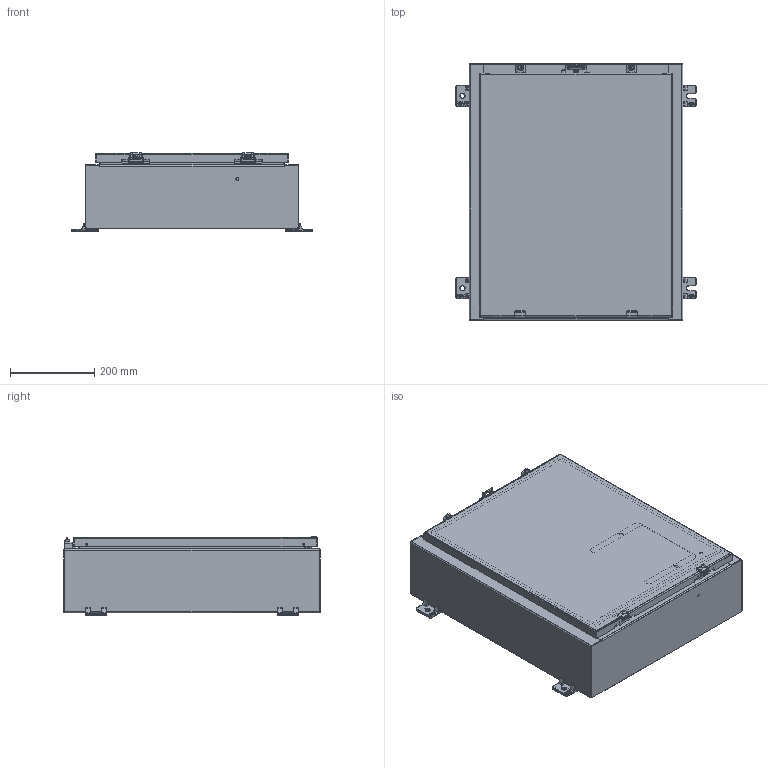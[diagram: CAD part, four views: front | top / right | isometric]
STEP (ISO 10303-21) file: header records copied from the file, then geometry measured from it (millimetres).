
FILE_DESCRIPTION((''),'2;1');
FILE_NAME('MODEL-310_ASM','2024-10-02T13:18:39',('richards'),('SAGINAW CONTROL & ENGINEERING'),'CREO PARAMETRIC BY PTC INC, 2021284','CREO PARAMETRIC BY PTC INC, 2021284','');
FILE_SCHEMA(('AUTOMOTIVE_DESIGN { 1 0 10303 214 1 1 1 1 }'));
Length unit declared in the file: inch
Products named in the file (35): MODEL-310-BDY; MODEL-310-RS; MODEL-310-LS; MODEL-310-DR; 100837; 100882; 111541; MODEL-310-DOOR-GASKET; 126391; 126391_ASM; 126393; 102483; 101226; 101376; 102140; 115117; MODEL-310-DOOR-ASSY_ASM; 128630; 100059; 128630_ASM; 100921; 128631; 128631_ASM; 101653; 121452; 120132_BASE; 120132_CLAMP; 120132_SCREW; 120132_SPRING; 120132_ASM; 120133; SUBPANEL; 100904; SUBPANEL-SUBASSEMBLY_ASM; MODEL-310_ASM
Assembly tree (65 placements, depth 4):
  MODEL-310_ASM
    MODEL-310-BDY
    MODEL-310-RS
    MODEL-310-LS
    MODEL-310-DOOR-ASSY_ASM
      MODEL-310-DR
      100837  x3
      100882  x2
      111541
      MODEL-310-DOOR-GASKET
      126391_ASM  x2
        126391
      126393  x2
      102483  x7
      101226  x2
      101376  x2
      102140  x2
      115117
    128630_ASM  x2
      128630
      100059
    100921  x4
    128631_ASM  x2
      128631
      100059
    100837
    101653  x4
    121452
    120132_ASM  x2
      120132_BASE
      120132_CLAMP
      120132_SCREW
      120132_SPRING
    100882  x3
    120133
    SUBPANEL-SUBASSEMBLY_ASM
      SUBPANEL
      100904  x4
Bounding box: 571.5 x 609.6 x 186.51 mm (x, y, z)
Volume: 3197794.9 mm3; surface area: 2878636.1 mm2
Topology: 65 solids, 65 shells, 4738 faces, 12123 edges, 7604 vertices
Faces by surface type: plane 1733, cylinder 1297, bspline 941, torus 526, cone 140, sphere 101
Entity records: 113627 total; most frequent: CARTESIAN_POINT 35815, ORIENTED_EDGE 11508, DIRECTION 11110, PRESENTATION_STYLE_ASSIGNMENT 5887, STYLED_ITEM 5887, CURVE_STYLE 5754, EDGE_CURVE 5754, AXIS2_PLACEMENT_3D 4135
